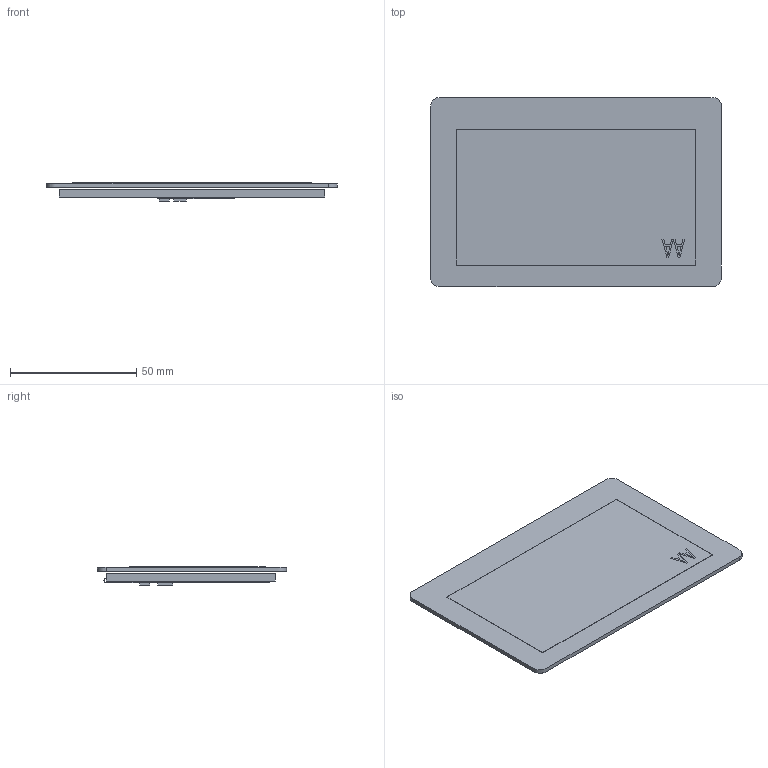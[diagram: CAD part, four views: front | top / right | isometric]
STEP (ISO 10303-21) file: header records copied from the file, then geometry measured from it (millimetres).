
FILE_DESCRIPTION(/* description */ (''),/* implementation_level */ '2;1');
FILE_NAME(/* name */ 'VTc043T64CG.stp',/* time_stamp */ '2025-02-15T17:25:54+08:00',/* author */ (''),/* organization */ (''),/* preprocessor_version */ 'ST-DEVELOPER v16',/* originating_system */ 'SIEMENS PLM Software NX 10.0',/* authorisation */ '');
FILE_SCHEMA (('AP203_CONFIGURATION_CONTROLLED_3D_DESIGN_OF_MECHANICAL_PARTS_AND_ASSEMBLIES_MIM_LF { 1 0 10303 403 2 1 2}'));
Length unit declared in the file: millimetre
Products named in the file (1): VTc043T64CG
Bounding box: 115.4 x 75 x 7.31 mm (x, y, z)
Volume: 36314.9 mm3; surface area: 46830.4 mm2
Topology: 23 solids, 23 shells, 156 faces, 330 edges, 220 vertices
Faces by surface type: plane 149, cylinder 4, extrusion 3
Entity records: 5498 total; most frequent: CARTESIAN_POINT 920, ORIENTED_EDGE 660, DIRECTION 635, EDGE_CURVE 330, VECTOR 311, LINE 308, VERTEX_POINT 220, PRESENTATION_STYLE_ASSIGNMENT 166
